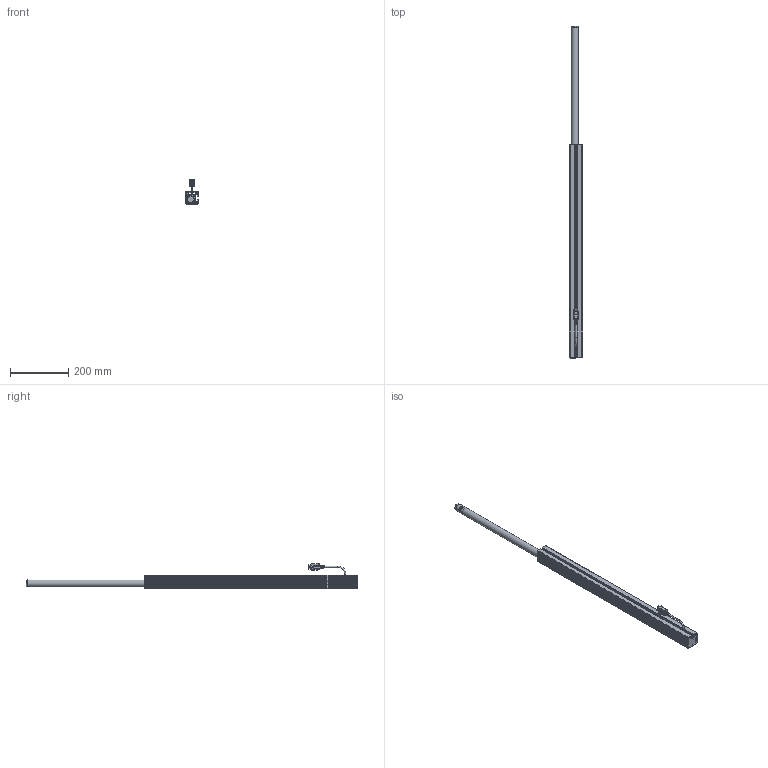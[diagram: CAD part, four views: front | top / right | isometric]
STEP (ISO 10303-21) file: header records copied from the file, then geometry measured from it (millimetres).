
FILE_DESCRIPTION(/* description */ ('Unknown'),/* implementation_level */ '2;1');
FILE_NAME(/* name */ '907.02004_00-Ausgefahren',/* time_stamp */ '2022-02-03T15:53:20+01:00',/* author */ ('Unknown'),/* organization */ ('Unknown'),/* preprocessor_version */ 'ST-DEVELOPER v18.1',/* originating_system */ 'Solid Edge',/* authorisation */ 'Unknown');
FILE_SCHEMA (('AUTOMOTIVE_DESIGN {1 0 10303 214 3 1 1}'));
Length unit declared in the file: millimetre
Products named in the file (9): 907.02004; 142.00014; 119.00501; 122.00005; 142.00020; 123.00111; 125.00051; 128.00040; Kabel Molex
Assembly tree (14 placements, depth 2):
  907.02004
    142.00014  x4
    119.00501
    122.00005
    142.00020  x4
    123.00111
    125.00051
    128.00040
    Kabel Molex
Bounding box: 45 x 1140 x 86.17 mm (x, y, z)
Volume: 610106.7 mm3; surface area: 499734.1 mm2
Topology: 14 solids, 14 shells, 2748 faces, 7757 edges, 5052 vertices
Faces by surface type: plane 1473, cylinder 938, bspline 175, torus 71, cone 51, sphere 40
Full cylindrical faces by diameter (mm): 2.5 x13, 3 x4, 4 x12, 5 x3, 6.647 x1, 8.376 x2, 17.3 x1, 19 x1, 20.8 x3, 21 x2, 25 x2, 30 x2
Entity records: 94110 total; most frequent: CARTESIAN_POINT 21901, ORIENTED_EDGE 14942, DIRECTION 13725, EDGE_CURVE 7471, VERTEX_POINT 4911, LINE 4645, VECTOR 4645, AXIS2_PLACEMENT_3D 4540
